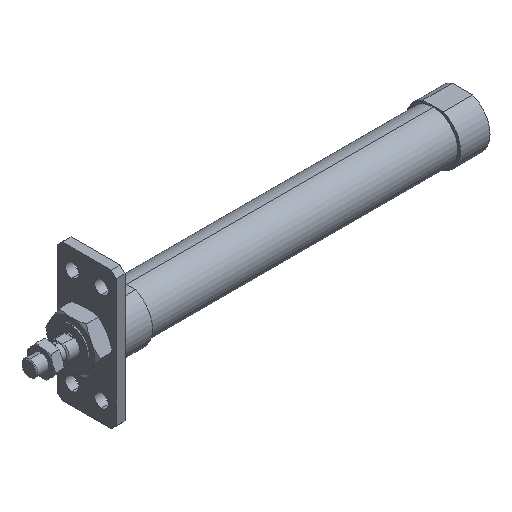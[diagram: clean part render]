
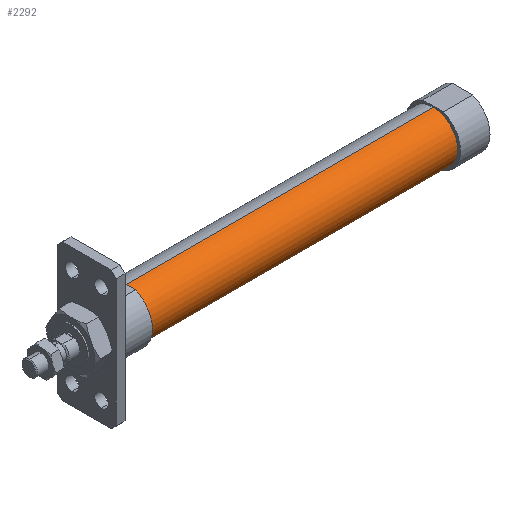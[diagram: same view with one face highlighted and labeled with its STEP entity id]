
A CAD part, isometric view. The second image highlights one B-rep face of the part: STEP entity #2292.
In plain terms, the highlighted cylindrical face has radius 12.5 mm (diameter 25 mm), a partial arc.
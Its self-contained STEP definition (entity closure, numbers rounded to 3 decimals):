
#137 = DIRECTION ( 'NONE',  ( 0., 0., 1. ) ) ;
#168 = CARTESIAN_POINT ( 'NONE',  ( -6.469, 0., 12.5 ) ) ;
#195 = VECTOR ( 'NONE', #2550, 1000. ) ;
#219 = CARTESIAN_POINT ( 'NONE',  ( 49., 0., 0. ) ) ;
#327 = EDGE_CURVE ( 'NONE', #3562, #3011, #1733, .T. ) ;
#669 = ORIENTED_EDGE ( 'NONE', *, *, #1407, .T. ) ;
#913 = VERTEX_POINT ( 'NONE', #2778 ) ;
#930 = DIRECTION ( 'NONE',  ( -1., 0., 0. ) ) ;
#991 = AXIS2_PLACEMENT_3D ( 'NONE', #2732, #930, #1277 ) ;
#1019 = EDGE_CURVE ( 'NONE', #913, #3562, #1499, .T. ) ;
#1083 = VECTOR ( 'NONE', #2319, 1000. ) ;
#1096 = CARTESIAN_POINT ( 'NONE',  ( -6.469, 0., -12.5 ) ) ;
#1128 = CARTESIAN_POINT ( 'NONE',  ( -6.469, 0., 0. ) ) ;
#1252 = FACE_OUTER_BOUND ( 'NONE', #2272, .T. ) ;
#1277 = DIRECTION ( 'NONE',  ( 0., 0., 1. ) ) ;
#1407 = EDGE_CURVE ( 'NONE', #2419, #3011, #3648, .T. ) ;
#1499 = LINE ( 'NONE', #1096, #1083 ) ;
#1709 = ORIENTED_EDGE ( 'NONE', *, *, #1019, .F. ) ;
#1733 = CIRCLE ( 'NONE', #1981, 12.5 ) ;
#1922 = DIRECTION ( 'NONE',  ( -1., 0., 0. ) ) ;
#1981 = AXIS2_PLACEMENT_3D ( 'NONE', #219, #1922, #137 ) ;
#2061 = CARTESIAN_POINT ( 'NONE',  ( 49., 0., 12.5 ) ) ;
#2272 = EDGE_LOOP ( 'NONE', ( #1709, #3384, #669, #2838 ) ) ;
#2292 = ADVANCED_FACE ( 'NONE', ( #1252 ), #2417, .T. ) ;
#2319 = DIRECTION ( 'NONE',  ( -1., 0., 0. ) ) ;
#2350 = CARTESIAN_POINT ( 'NONE',  ( 206., 0., 12.5 ) ) ;
#2417 = CYLINDRICAL_SURFACE ( 'NONE', #2955, 12.5 ) ;
#2419 = VERTEX_POINT ( 'NONE', #2350 ) ;
#2550 = DIRECTION ( 'NONE',  ( -1., 0., 0. ) ) ;
#2608 = DIRECTION ( 'NONE',  ( 0., 0., 1. ) ) ;
#2619 = EDGE_CURVE ( 'NONE', #913, #2419, #3508, .T. ) ;
#2732 = CARTESIAN_POINT ( 'NONE',  ( 206., 0., 0. ) ) ;
#2778 = CARTESIAN_POINT ( 'NONE',  ( 206., 0., -12.5 ) ) ;
#2838 = ORIENTED_EDGE ( 'NONE', *, *, #327, .F. ) ;
#2955 = AXIS2_PLACEMENT_3D ( 'NONE', #1128, #3475, #2608 ) ;
#3011 = VERTEX_POINT ( 'NONE', #2061 ) ;
#3384 = ORIENTED_EDGE ( 'NONE', *, *, #2619, .T. ) ;
#3475 = DIRECTION ( 'NONE',  ( -1., 0., 0. ) ) ;
#3508 = CIRCLE ( 'NONE', #991, 12.5 ) ;
#3562 = VERTEX_POINT ( 'NONE', #3790 ) ;
#3648 = LINE ( 'NONE', #168, #195 ) ;
#3790 = CARTESIAN_POINT ( 'NONE',  ( 49., 0., -12.5 ) ) ;
